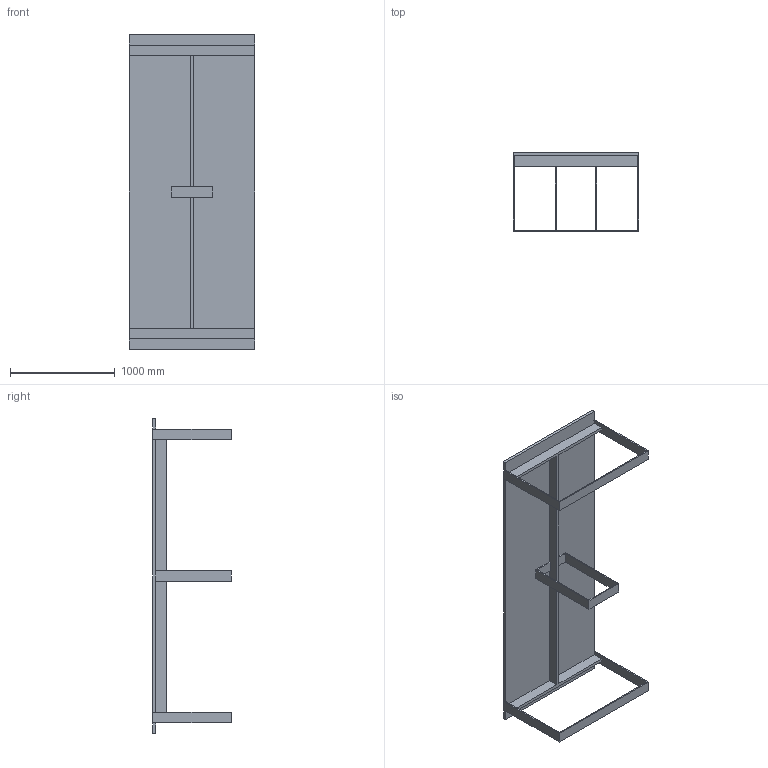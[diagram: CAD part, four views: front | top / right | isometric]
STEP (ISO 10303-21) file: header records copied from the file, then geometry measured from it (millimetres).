
FILE_DESCRIPTION (( 'STEP AP203' ), '1' );
FILE_NAME ('Haag 3000x1200x750.STEP', '2019-04-02T17:47:42', ( '' ), ( '' ), 'SwSTEP 2.0', 'SolidWorks 2019', '' );
FILE_SCHEMA (( 'CONFIG_CONTROL_DESIGN' ));
Length unit declared in the file: millimetre
Products named in the file (1): Haag 3000x1200x750
Bounding box: 1200 x 750 x 3000 mm (x, y, z)
Volume: 130500000 mm3; surface area: 10700026.5 mm2
Topology: 4 solids, 4 shells, 83 faces, 228 edges, 152 vertices
Faces by surface type: plane 75, cylinder 8
Entity records: 2681 total; most frequent: CARTESIAN_POINT 464, ORIENTED_EDGE 456, DIRECTION 412, EDGE_CURVE 228, VECTOR 212, LINE 212, VERTEX_POINT 152, AXIS2_PLACEMENT_3D 100
